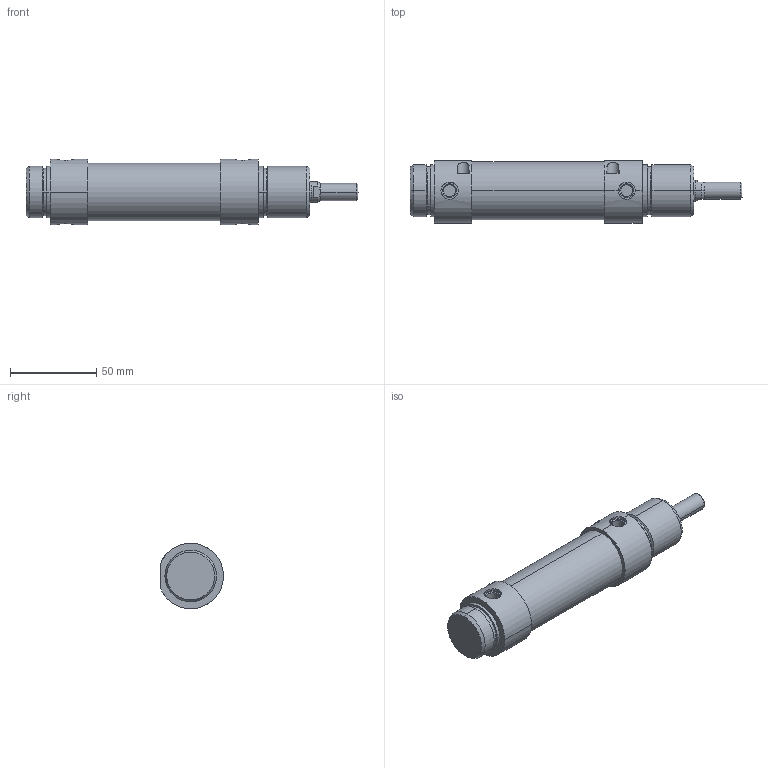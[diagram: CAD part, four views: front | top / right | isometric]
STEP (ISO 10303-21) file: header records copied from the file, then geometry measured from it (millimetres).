
FILE_DESCRIPTION (( 'STEP AP203' ), '1' );
FILE_NAME ('AH0320025A.step', '2012-10-18T16:34:04', ( '' ), ( '' ), 'SwSTEP 2.0', 'SolidWorks 2012', '' );
FILE_SCHEMA (( 'CONFIG_CONTROL_DESIGN' ));
Length unit declared in the file: millimetre
Products named in the file (1): AH0320025A
Bounding box: 193 x 36.5 x 38 mm (x, y, z)
Volume: 146718.1 mm3; surface area: 23166.1 mm2
Topology: 1 solids, 1 shells, 156 faces, 352 edges, 221 vertices
Faces by surface type: cylinder 65, plane 45, cone 42, bspline 4
Entity records: 5025 total; most frequent: CARTESIAN_POINT 1397, DIRECTION 789, ORIENTED_EDGE 704, EDGE_CURVE 352, AXIS2_PLACEMENT_3D 327, VERTEX_POINT 221, EDGE_LOOP 181, CIRCLE 174
